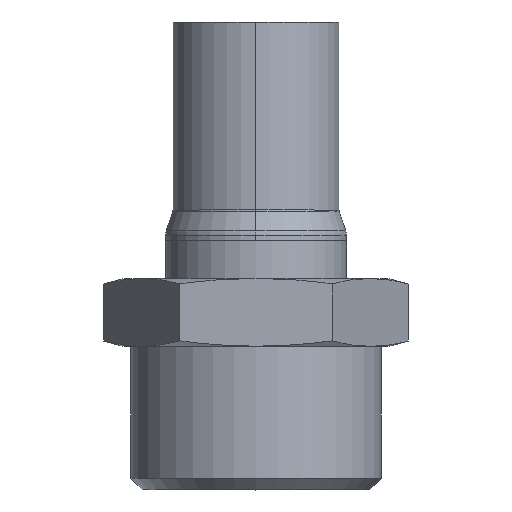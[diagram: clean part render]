
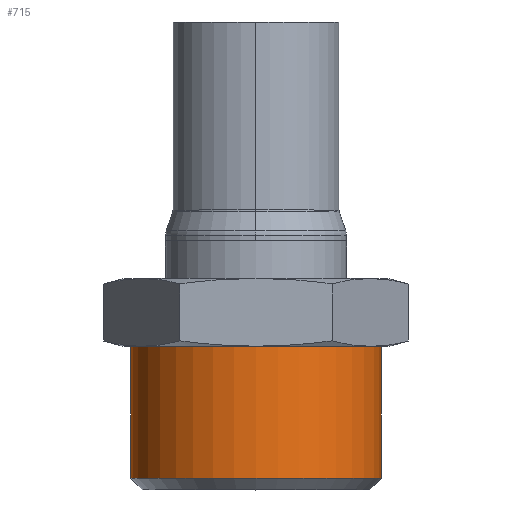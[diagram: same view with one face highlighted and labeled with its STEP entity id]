
A CAD part, top view. The second image highlights one B-rep face of the part: STEP entity #715.
In plain terms, the highlighted cylindrical face has radius 16.6 mm (diameter 33.2 mm), a partial arc.
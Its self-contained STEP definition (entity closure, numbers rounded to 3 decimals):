
#10 = EDGE_CURVE ( 'NONE', #516, #327, #972, .T. ) ;
#46 = CARTESIAN_POINT ( 'NONE',  ( -16.6, 19., 0. ) ) ;
#130 = DIRECTION ( 'NONE',  ( -1., 0., 0. ) ) ;
#261 = CYLINDRICAL_SURFACE ( 'NONE', #1589, 16.6 ) ;
#279 = ORIENTED_EDGE ( 'NONE', *, *, #10, .F. ) ;
#294 = DIRECTION ( 'NONE',  ( 0., -1., 0. ) ) ;
#327 = VERTEX_POINT ( 'NONE', #1696 ) ;
#398 = LINE ( 'NONE', #1105, #1486 ) ;
#408 = EDGE_CURVE ( 'NONE', #1095, #1091, #398, .T. ) ;
#447 = ORIENTED_EDGE ( 'NONE', *, *, #408, .T. ) ;
#516 = VERTEX_POINT ( 'NONE', #1563 ) ;
#547 = AXIS2_PLACEMENT_3D ( 'NONE', #813, #833, #975 ) ;
#625 = CIRCLE ( 'NONE', #547, 16.6 ) ;
#649 = VECTOR ( 'NONE', #294, 1000. ) ;
#677 = EDGE_LOOP ( 'NONE', ( #872, #447, #1368, #279 ) ) ;
#715 = ADVANCED_FACE ( 'NONE', ( #913 ), #261, .T. ) ;
#767 = CARTESIAN_POINT ( 'NONE',  ( -16.6, 1.5, 0. ) ) ;
#813 = CARTESIAN_POINT ( 'NONE',  ( 0., 19., 0. ) ) ;
#833 = DIRECTION ( 'NONE',  ( 0., -1., 0. ) ) ;
#864 = DIRECTION ( 'NONE',  ( 0., 1., 0. ) ) ;
#872 = ORIENTED_EDGE ( 'NONE', *, *, #1332, .T. ) ;
#879 = EDGE_CURVE ( 'NONE', #1091, #327, #1141, .T. ) ;
#913 = FACE_OUTER_BOUND ( 'NONE', #677, .T. ) ;
#972 = LINE ( 'NONE', #1488, #649 ) ;
#975 = DIRECTION ( 'NONE',  ( 1., 0., 0. ) ) ;
#1013 = DIRECTION ( 'NONE',  ( 1., 0., 0. ) ) ;
#1091 = VERTEX_POINT ( 'NONE', #767 ) ;
#1095 = VERTEX_POINT ( 'NONE', #46 ) ;
#1105 = CARTESIAN_POINT ( 'NONE',  ( -16.6, 0., 0. ) ) ;
#1141 = CIRCLE ( 'NONE', #1852, 16.6 ) ;
#1296 = CARTESIAN_POINT ( 'NONE',  ( 0., 0., 0. ) ) ;
#1332 = EDGE_CURVE ( 'NONE', #516, #1095, #625, .T. ) ;
#1368 = ORIENTED_EDGE ( 'NONE', *, *, #879, .T. ) ;
#1397 = DIRECTION ( 'NONE',  ( 0., -1., 0. ) ) ;
#1453 = DIRECTION ( 'NONE',  ( 0., -1., 0. ) ) ;
#1486 = VECTOR ( 'NONE', #1397, 1000. ) ;
#1488 = CARTESIAN_POINT ( 'NONE',  ( 16.6, 0., 0. ) ) ;
#1563 = CARTESIAN_POINT ( 'NONE',  ( 16.6, 19., 0. ) ) ;
#1589 = AXIS2_PLACEMENT_3D ( 'NONE', #1296, #1453, #1013 ) ;
#1633 = CARTESIAN_POINT ( 'NONE',  ( 0., 1.5, 0. ) ) ;
#1696 = CARTESIAN_POINT ( 'NONE',  ( 16.6, 1.5, 0. ) ) ;
#1852 = AXIS2_PLACEMENT_3D ( 'NONE', #1633, #864, #130 ) ;
